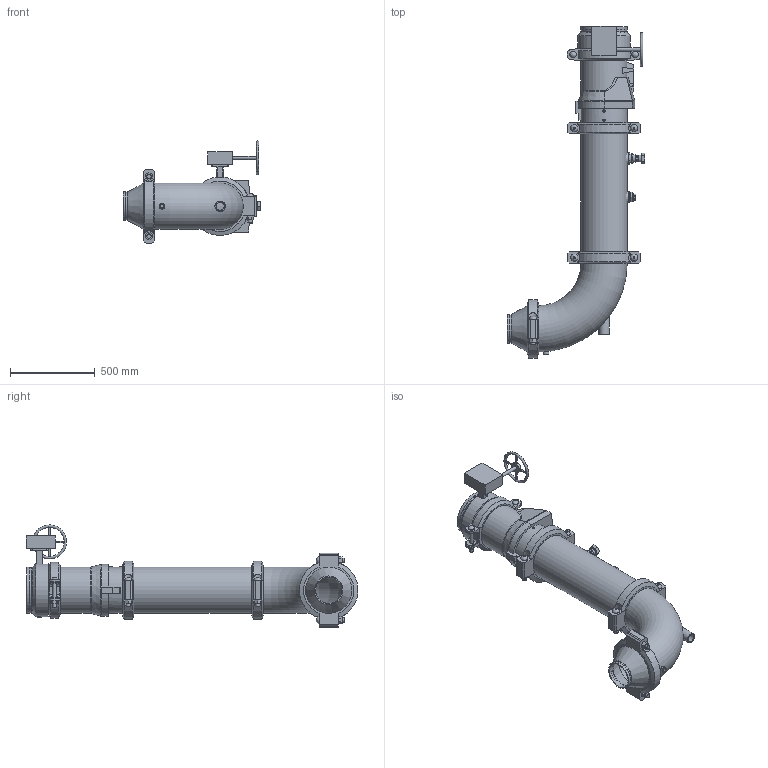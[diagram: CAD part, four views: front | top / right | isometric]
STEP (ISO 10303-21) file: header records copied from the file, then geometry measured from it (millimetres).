
FILE_DESCRIPTION(/* description */ ('VIC DVI PUMP DROP HORZ S/380G (OGSxOGS)','CAx-IF Rec.Pracs.---Representation and Presentation of Product Manufacturing Information (PMI)---4.0---2014-10-13'),/* implementation_level */ '2;1');
FILE_NAME(/* name */ 'C:\Users\kkamble\AppData\Roaming\Autodesk\ApplicationPlugins\Victaulic.Temp\A789\Victaulic_IPS_Horizontal DVI_CL 150_Series 380 (OGSxOGS)_924 (1.25)_10.0x06.0 (250x150).stp',/* time_stamp */ '2021-07-06T09:54:13+05:00',/* author */ ('Vjadhav'),/* organization */ ('Victaulic'),/* preprocessor_version */ 'ST-DEVELOPER v17.2',/* originating_system */ 'Autodesk Inventor 2019',/* authorisation */ '');
FILE_SCHEMA (('AP242_MANAGED_MODEL_BASED_3D_ENGINEERING_MIM_LF { 1 0 10303 442 1 1 4 }'));
Length unit declared in the file: inch
Products named in the file (10): 380_924 (1.25)-10.0x06.0; Pipe-10.0; 107N-10.0; 924-10.0x01.25; 923-10.0x0.75; 779-10.0; 761-10.0; 077-10.0; 100G-10.0; 050-10.0x06.0
Assembly tree (11 placements, depth 2):
  380_924 (1.25)-10.0x06.0
    Pipe-10.0
    107N-10.0
    924-10.0x01.25
    923-10.0x0.75
    779-10.0
    761-10.0
    077-10.0  x3
    100G-10.0
    050-10.0x06.0
Bounding box: 814.26 x 1959.6 x 603.11 mm (x, y, z)
Volume: 35201534.8 mm3; surface area: 5206036.3 mm2
Topology: 11 solids, 19 shells, 631 faces, 1575 edges, 1066 vertices
Faces by surface type: plane 360, cylinder 211, bspline 24, cone 24, torus 10, sphere 2
Full cylindrical faces by diameter (mm): 10.922 x4, 12.7 x1, 13.716 x4, 20.066 x1, 20.93 x1, 21.336 x2, 22.225 x4, 22.86 x1, 25.4 x12, 26.67 x4, 27.432 x6, 34.29 x1, 37.694 x2, 38.608 x1, 42.164 x1, 45.974 x4, 48.26 x1, 48.514 x1, 55.626 x2, 60.96 x1, 63.079 x1, 70.104 x1, 76.2 x1, 154.051 x1, 163.957 x1, 168.275 x2, 254.508 x6, 260.35 x1, 264.16 x3, 268.275 x9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
Entity records: 17752 total; most frequent: CARTESIAN_POINT 4114, DIRECTION 2777, ORIENTED_EDGE 2570, EDGE_CURVE 1285, AXIS2_PLACEMENT_3D 1059, VERTEX_POINT 870, LINE 659, VECTOR 659
